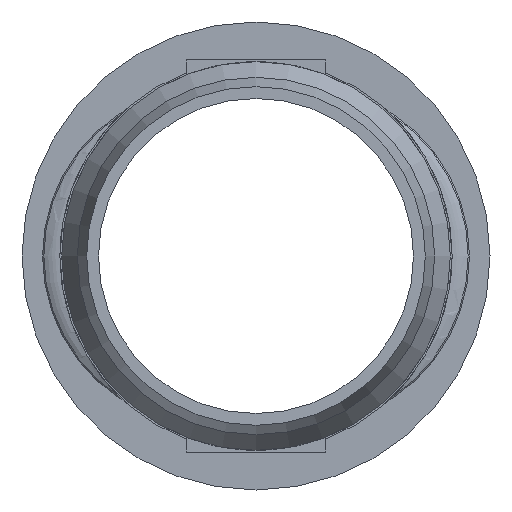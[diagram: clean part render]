
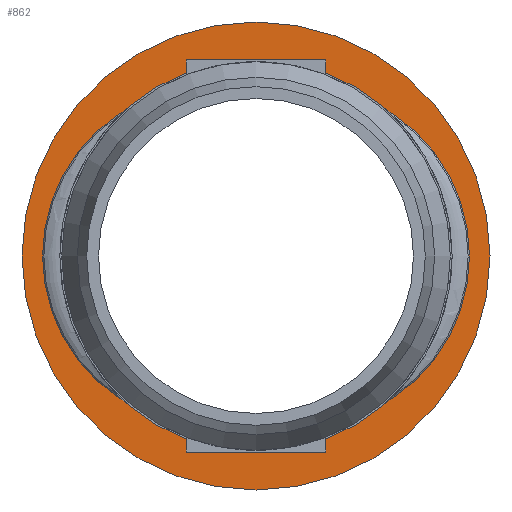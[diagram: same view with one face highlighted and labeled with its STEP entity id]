
A CAD part, left-side view. The second image highlights one B-rep face of the part: STEP entity #862.
In plain terms, the highlighted planar face has unit normal (-1, 0, 0).
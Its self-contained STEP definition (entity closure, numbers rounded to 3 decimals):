
#89=LINE($,#1244,#117);
#93=LINE($,#1256,#121);
#97=LINE($,#1262,#125);
#98=LINE($,#1269,#126);
#99=LINE($,#1271,#127);
#100=LINE($,#1273,#128);
#117=VECTOR($,#1027,1.47);
#121=VECTOR($,#1037,1.47);
#125=VECTOR($,#1043,16.);
#126=VECTOR($,#1050,1.47);
#127=VECTOR($,#1051,16.);
#128=VECTOR($,#1052,1.47);
#155=PLANE($,#923);
#170=FACE_BOUND($,#255,.T.);
#202=FACE_OUTER_BOUND($,#254,.T.);
#254=EDGE_LOOP($,(#592));
#255=EDGE_LOOP($,(#593,#594,#595,#596,#597,#598,#599,#600));
#327=CIRCLE($,#924,26.85);
#328=CIRCLE($,#925,22.5);
#329=CIRCLE($,#926,22.5);
#367=VERTEX_POINT($,#1234);
#371=VERTEX_POINT($,#1242);
#374=VERTEX_POINT($,#1252);
#376=VERTEX_POINT($,#1255);
#378=VERTEX_POINT($,#1264);
#379=VERTEX_POINT($,#1266);
#380=VERTEX_POINT($,#1268);
#381=VERTEX_POINT($,#1270);
#382=VERTEX_POINT($,#1272);
#459=EDGE_CURVE($,#367,#371,#89,.T.);
#464=EDGE_CURVE($,#376,#374,#93,.T.);
#468=EDGE_CURVE($,#371,#376,#97,.T.);
#469=EDGE_CURVE($,#378,#378,#327,.T.);
#470=EDGE_CURVE($,#374,#379,#328,.T.);
#471=EDGE_CURVE($,#379,#380,#98,.T.);
#472=EDGE_CURVE($,#380,#381,#99,.T.);
#473=EDGE_CURVE($,#381,#382,#100,.T.);
#474=EDGE_CURVE($,#382,#367,#329,.T.);
#592=ORIENTED_EDGE($,*,*,#469,.F.);
#593=ORIENTED_EDGE($,*,*,#459,.T.);
#594=ORIENTED_EDGE($,*,*,#468,.T.);
#595=ORIENTED_EDGE($,*,*,#464,.T.);
#596=ORIENTED_EDGE($,*,*,#470,.T.);
#597=ORIENTED_EDGE($,*,*,#471,.T.);
#598=ORIENTED_EDGE($,*,*,#472,.T.);
#599=ORIENTED_EDGE($,*,*,#473,.T.);
#600=ORIENTED_EDGE($,*,*,#474,.T.);
#862=ADVANCED_FACE($,(#202,#170),#155,.T.);
#923=AXIS2_PLACEMENT_3D($,#1263,#1044,#1045);
#924=AXIS2_PLACEMENT_3D($,#1265,#1046,#1047);
#925=AXIS2_PLACEMENT_3D($,#1267,#1048,#1049);
#926=AXIS2_PLACEMENT_3D($,#1274,#1053,#1054);
#1027=DIRECTION($,(0.,0.,1.));
#1037=DIRECTION($,(0.,0.,-1.));
#1043=DIRECTION($,(0.,-1.,0.));
#1044=DIRECTION('center_axis',(-1.,0.,0.));
#1045=DIRECTION('ref_axis',(0.,0.,1.));
#1046=DIRECTION('center_axis',(1.,0.,0.));
#1047=DIRECTION('ref_axis',(0.,1.,0.));
#1048=DIRECTION('center_axis',(1.,0.,0.));
#1049=DIRECTION('ref_axis',(0.,1.,0.));
#1050=DIRECTION($,(0.,0.,-1.));
#1051=DIRECTION($,(0.,1.,0.));
#1052=DIRECTION($,(0.,0.,1.));
#1053=DIRECTION('center_axis',(1.,0.,0.));
#1054=DIRECTION('ref_axis',(0.,1.,0.));
#1234=CARTESIAN_POINT('',(152.4,8.,21.03));
#1242=CARTESIAN_POINT('',(152.4,8.,22.5));
#1244=CARTESIAN_POINT($,(152.4,8.,11.25));
#1252=CARTESIAN_POINT('',(152.4,-8.,21.03));
#1255=CARTESIAN_POINT('',(152.4,-8.,22.5));
#1256=CARTESIAN_POINT($,(152.4,-8.,11.25));
#1262=CARTESIAN_POINT($,(152.4,12.338,22.5));
#1263=CARTESIAN_POINT('Origin',(152.4,24.675,0.));
#1264=CARTESIAN_POINT('',(152.4,26.85,0.));
#1265=CARTESIAN_POINT('Origin',(152.4,0.,0.));
#1266=CARTESIAN_POINT('',(152.4,-8.,-21.03));
#1267=CARTESIAN_POINT('Origin',(152.4,0.,0.));
#1268=CARTESIAN_POINT('',(152.4,-8.,-22.5));
#1269=CARTESIAN_POINT($,(152.4,-8.,-11.25));
#1270=CARTESIAN_POINT('',(152.4,8.,-22.5));
#1271=CARTESIAN_POINT($,(152.4,12.338,-22.5));
#1272=CARTESIAN_POINT('',(152.4,8.,-21.03));
#1273=CARTESIAN_POINT($,(152.4,8.,-11.25));
#1274=CARTESIAN_POINT('Origin',(152.4,0.,0.));
